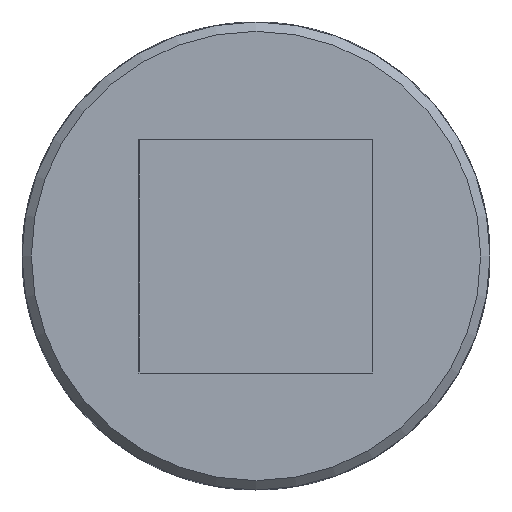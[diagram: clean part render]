
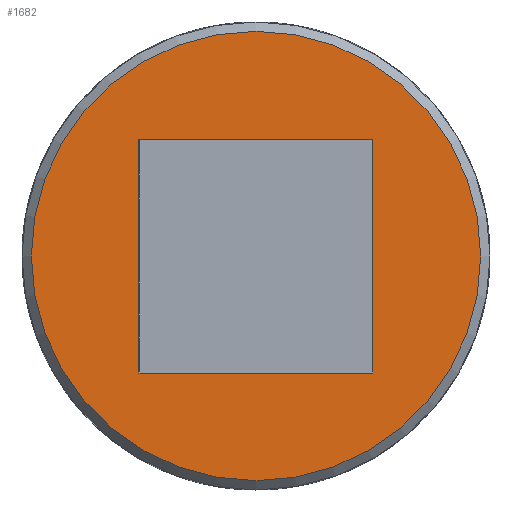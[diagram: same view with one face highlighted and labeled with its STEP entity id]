
A CAD part, front view. The second image highlights one B-rep face of the part: STEP entity #1682.
In plain terms, the highlighted planar face has unit normal (0, -1, 0).
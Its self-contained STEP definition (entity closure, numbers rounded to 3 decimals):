
#112=LINE('',#3176,#176);
#116=LINE('',#3199,#180);
#122=LINE('',#3237,#186);
#125=LINE('',#3257,#189);
#176=VECTOR('',#2169,25.);
#180=VECTOR('',#2177,25.);
#186=VECTOR('',#2185,25.);
#189=VECTOR('',#2192,25.);
#240=PLANE('',#1848);
#383=FACE_BOUND('',#608,.T.);
#469=FACE_OUTER_BOUND('',#607,.T.);
#607=EDGE_LOOP('',(#1467));
#608=EDGE_LOOP('',(#1468,#1469,#1470,#1471));
#696=CIRCLE('',#1846,24.);
#823=VERTEX_POINT('',#3173);
#824=VERTEX_POINT('',#3175);
#830=VERTEX_POINT('',#3198);
#839=VERTEX_POINT('',#3235);
#846=VERTEX_POINT('',#3304);
#1029=EDGE_CURVE('',#824,#823,#112,.T.);
#1036=EDGE_CURVE('',#830,#824,#116,.T.);
#1046=EDGE_CURVE('',#823,#839,#122,.T.);
#1052=EDGE_CURVE('',#839,#830,#125,.T.);
#1063=EDGE_CURVE('',#846,#846,#696,.T.);
#1467=ORIENTED_EDGE('',*,*,#1063,.F.);
#1468=ORIENTED_EDGE('',*,*,#1029,.T.);
#1469=ORIENTED_EDGE('',*,*,#1046,.T.);
#1470=ORIENTED_EDGE('',*,*,#1052,.T.);
#1471=ORIENTED_EDGE('',*,*,#1036,.T.);
#1682=ADVANCED_FACE('',(#469,#383),#240,.F.);
#1846=AXIS2_PLACEMENT_3D('',#3305,#2221,#2222);
#1848=AXIS2_PLACEMENT_3D('',#3513,#2229,#2230);
#2169=DIRECTION('',(0.,0.,-1.));
#2177=DIRECTION('',(1.,0.,0.));
#2185=DIRECTION('',(-1.,0.,0.));
#2192=DIRECTION('',(0.,0.,1.));
#2221=DIRECTION('center_axis',(0.,1.,0.));
#2222=DIRECTION('ref_axis',(1.,0.,0.));
#2229=DIRECTION('center_axis',(0.,1.,0.));
#2230=DIRECTION('ref_axis',(0.,0.,1.));
#3173=CARTESIAN_POINT('',(12.5,-66.5,-12.5));
#3175=CARTESIAN_POINT('',(12.5,-66.5,12.5));
#3176=CARTESIAN_POINT('',(12.5,-66.5,6.25));
#3198=CARTESIAN_POINT('',(-12.5,-66.5,12.5));
#3199=CARTESIAN_POINT('',(-6.25,-66.5,12.5));
#3235=CARTESIAN_POINT('',(-12.5,-66.5,-12.5));
#3237=CARTESIAN_POINT('',(6.25,-66.5,-12.5));
#3257=CARTESIAN_POINT('',(-12.5,-66.5,-6.25));
#3304=CARTESIAN_POINT('',(-24.,-66.5,0.));
#3305=CARTESIAN_POINT('Origin',(0.,-66.5,0.));
#3513=CARTESIAN_POINT('Origin',(0.,-66.5,0.));
